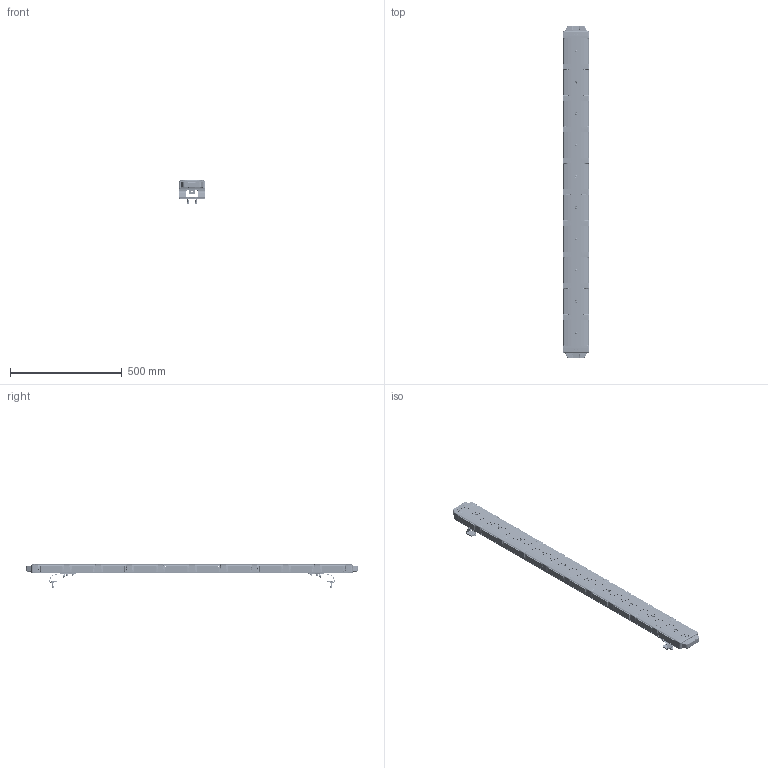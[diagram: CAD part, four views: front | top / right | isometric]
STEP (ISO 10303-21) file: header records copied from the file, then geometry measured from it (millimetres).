
FILE_DESCRIPTION((''),'2;1');
FILE_NAME('0-48-ASM_1_ASM','2021-12-27T14:28:00',('dell'),(''),'CREO PARAMETRIC BY PTC INC, 2021284','CREO PARAMETRIC BY PTC INC, 2021284','');
FILE_SCHEMA(('CONFIG_CONTROL_DESIGN','SHAPE_APPEARANCE_LAYERS_GROUPS'));
Products named in the file (233): SHANG_GAI; XIA_XING_CAI-48; M3X5_PING_BAO_TOU_LUO_DING; L200_P1; PCB_SF-L200-V1_02; L200_S2; PCB_L200-10LED-V1_02_1; PCB_L200-10LED-V1_02_2; PCB_L200-10LED-V1_02_3; PCB_L200-10LED-V1_02_4; PCB_L200-10LED-V1_02_5; PCB_L200-10LED-V1_02_6; PCB_L200-10LED-V1_02_7; PCB_L200-10LED-V1_02_8; PCB_L200-10LED-V1_02_9; PCB_L200-10LED-V1_02_10; PCB_L200-10LED-V1_02_11; PCB_L200-10LED-V1_02_12; PCB_L200-10LED-V1_02_13; PCB_L200-10LED-V1_02_14; PCB_L200-10LED-V1_02_15; PCB_L200-10LED-V1_02_16; PCB_L200-10LED-V1_02_17; PCB_L200-10LED-V1_02_18; PCB_L200-10LED-V1_02_19; PCB_L200-10LED-V1_02_ASM; L200_P2; L200_S1; L200_M2; L200_M1; 0-L200-ASM_ASM; CE_GAI; CE_GAI_GU_DING_BAN_F1; GB-T818_H-2000_M3X8; GB-T818_H-2000_M5X12; 0-CE_ZU_JIAN-ASM_ASM; QIAN_HOU_TOU_JING; QIAN_HOU_GU_DING_ZUO; LENS-4; QIAN_HOU_DENG_BAN_PCB_1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
Assembly tree (289 placements, depth 5):
  0-48-ASM_1_ASM
    SHANG_GAI  x7
    XIA_XING_CAI-48
    0-CE_ZU_JIAN-ASM_ASM  x2
      0-L200-ASM_ASM
        M3X5_PING_BAO_TOU_LUO_DING  x2
        L200_P1
        PCB_SF-L200-V1_02
        L200_S2
        PCB_L200-10LED-V1_02_ASM
          PCB_L200-10LED-V1_02_1
          PCB_L200-10LED-V1_02_2
          PCB_L200-10LED-V1_02_3
          PCB_L200-10LED-V1_02_4
          PCB_L200-10LED-V1_02_5
          PCB_L200-10LED-V1_02_6
          PCB_L200-10LED-V1_02_7
          PCB_L200-10LED-V1_02_8
          PCB_L200-10LED-V1_02_9
          PCB_L200-10LED-V1_02_10
          PCB_L200-10LED-V1_02_11
          PCB_L200-10LED-V1_02_12
          PCB_L200-10LED-V1_02_13
          PCB_L200-10LED-V1_02_14
          PCB_L200-10LED-V1_02_15
          PCB_L200-10LED-V1_02_16
          PCB_L200-10LED-V1_02_17
          PCB_L200-10LED-V1_02_18
          PCB_L200-10LED-V1_02_19
        L200_P2
        L200_S1
        L200_M2
        L200_M1
      CE_GAI
      CE_GAI_GU_DING_BAN_F1
      GB-T818_H-2000_M3X8
      GB-T818_H-2000_M5X12
    GB-T818_H-2000_M5X12  x8
    0-QIAN_HOU_DENG_ZU-ASM_ASM  x14
      QIAN_HOU_TOU_JING
      QIAN_HOU_GU_DING_ZUO
      LENS-4
      QIAN_HOU_DENG_BAN_PCB_ASM
        QIAN_HOU_DENG_BAN_PCB_1
        QIAN_HOU_DENG_BAN_PCB_2
        QIAN_HOU_DENG_BAN_PCB_3
        QIAN_HOU_DENG_BAN_PCB_4
        QIAN_HOU_DENG_BAN_PCB_5
        QIAN_HOU_DENG_BAN_PCB_6
        QIAN_HOU_DENG_BAN_PCB_7
        QIAN_HOU_DENG_BAN_PCB_8
        QIAN_HOU_DENG_BAN_PCB_9
      XI_JIAO_PIAN_ASM
        XI_JIAO_PIAN_1
        XI_JIAO_PIAN_2
      GB859-87_M4
    0-JIAO_JIA-ASM_ASM  x2
      JIAO_JIA_ASM
        JIAO_JIA_1
        JIAO_JIA_2
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Bounding box: 120.19 x 1485.4 x 106.49 mm (x, y, z)
Volume: 2593737 mm3; surface area: 2523610.4 mm2
Topology: 606 solids, 608 shells, 40526 faces, 104549 edges, 64963 vertices
Faces by surface type: plane 19457, bspline 9010, cylinder 8061, cone 1516, torus 894, extrusion 850, sphere 398, revolution 340
Entity records: 325678 total; most frequent: CARTESIAN_POINT 117995, ORIENTED_EDGE 35310, DIRECTION 29150, EDGE_CURVE 17664, PRESENTATION_STYLE_ASSIGNMENT 14399, STYLED_ITEM 14343, CURVE_STYLE 14298, VERTEX_POINT 11307
